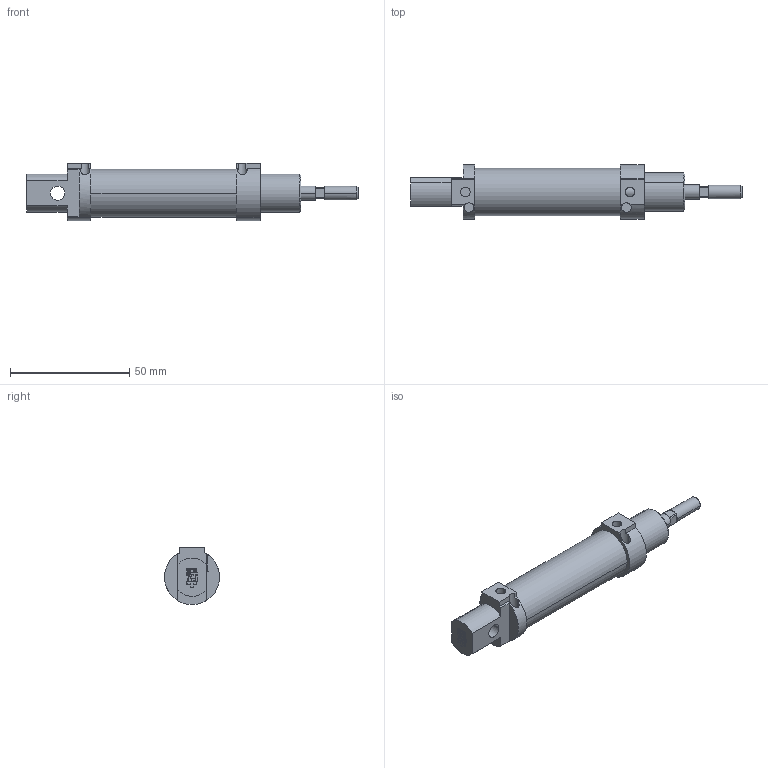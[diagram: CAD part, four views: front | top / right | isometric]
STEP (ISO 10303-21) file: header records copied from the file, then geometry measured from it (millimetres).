
FILE_DESCRIPTION(('CATIA V5 STEP Exchange'),'2;1');
FILE_NAME('D:\stp file for catalog\PSN\16\PSN-16-06-25.stp','2018-04-25T10:46:30+00:00',('none'),('none'),'CATIA Version 5-6 Release 2016','CATIA V5 STEP AP203','none');
FILE_SCHEMA(('CONFIG_CONTROL_DESIGN'));
Length unit declared in the file: millimetre
Products named in the file (1): PSN-16-06-25-00
Assembly tree (2 placements, depth 2):
  PSN-16-06-25-00
    #57
    #4950
Bounding box: 139.25 x 23 x 24 mm (x, y, z)
Volume: 26313.8 mm3; surface area: 16913.4 mm2
Topology: 2 solids, 2 shells, 200 faces, 502 edges, 330 vertices
Faces by surface type: plane 134, cylinder 58, cone 8
Entity records: 5640 total; most frequent: CARTESIAN_POINT 1068, ORIENTED_EDGE 1004, DIRECTION 751, EDGE_CURVE 502, VECTOR 352, LINE 352, VERTEX_POINT 330, AXIS2_PLACEMENT_3D 270
